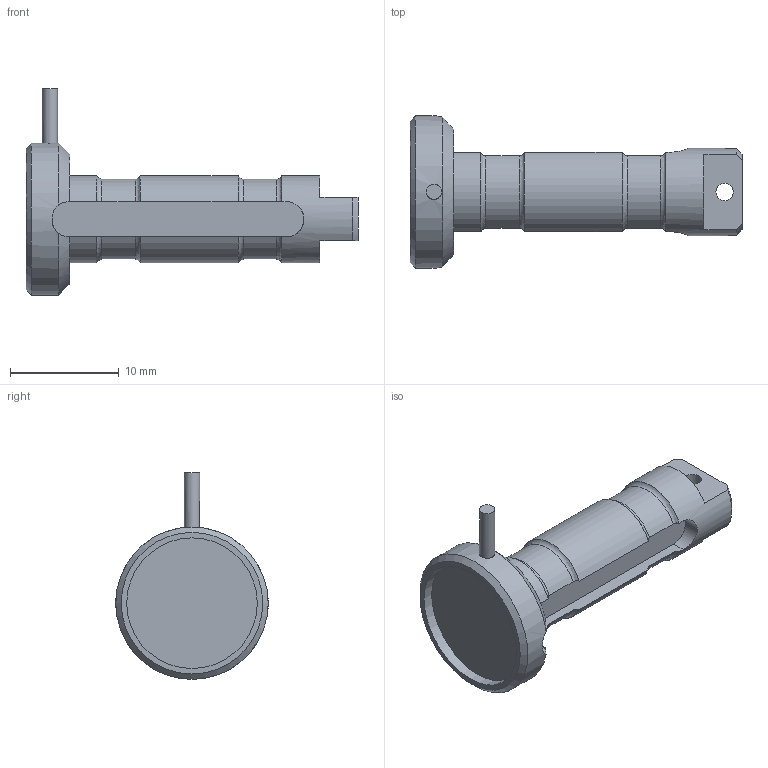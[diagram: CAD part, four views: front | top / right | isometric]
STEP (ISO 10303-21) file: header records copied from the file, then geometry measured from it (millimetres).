
FILE_DESCRIPTION(/* description */ ('Alibre Inc.'),/* implementation_level */ '2;1');
FILE_NAME(/* name */ 'export1',/* time_stamp */ '2014-08-26T08:59:12+02:00',/* author */ (''),/* organization */ (''),/* preprocessor_version */ 'ST-DEVELOPER v14',/* originating_system */ 'Alibre',/* authorisation */ '');
FILE_SCHEMA (('CONFIG_CONTROL_DESIGN'));
Length unit declared in the file: centimetre
Products named in the file (1): ID_1
Bounding box: 30.5 x 14 x 19 mm (x, y, z)
Volume: 1466.7 mm3; surface area: 1292.9 mm2
Topology: 1 solids, 1 shells, 54 faces, 150 edges, 100 vertices
Faces by surface type: cylinder 21, plane 20, torus 8, cone 5
Full cylindrical faces by diameter (mm): 1.4 x1, 1.6 x1, 8 x1, 12 x1, 14 x1
Entity records: 2067 total; most frequent: CARTESIAN_POINT 782, ORIENTED_EDGE 280, DIRECTION 193, EDGE_CURVE 140, VERTEX_POINT 96, AXIS2_PLACEMENT_3D 80, EDGE_LOOP 64, FACE_BOUND 64
